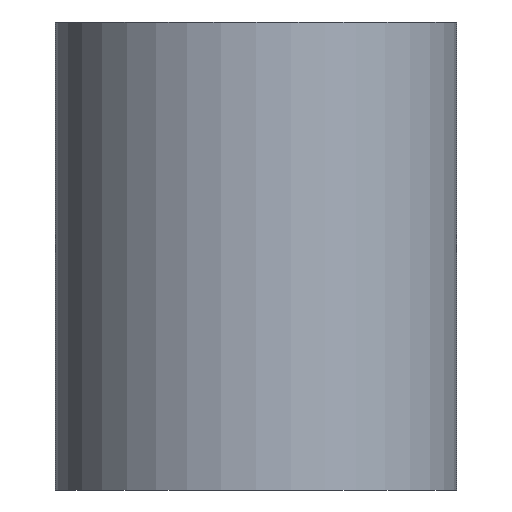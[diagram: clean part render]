
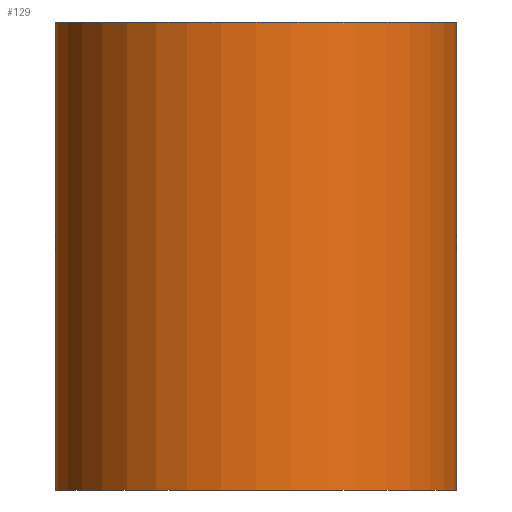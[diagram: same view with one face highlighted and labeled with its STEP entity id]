
A CAD part, front view. The second image highlights one B-rep face of the part: STEP entity #129.
In plain terms, the highlighted cylindrical face has radius 15 mm (diameter 30 mm), a partial arc.
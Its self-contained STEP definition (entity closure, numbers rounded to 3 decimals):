
#102=CYLINDRICAL_SURFACE('',#250,15.);
#108=FACE_OUTER_BOUND('',#150,.T.);
#113=LINE('',#337,#119);
#114=LINE('',#338,#120);
#119=VECTOR('',#295,1.);
#120=VECTOR('',#296,1.);
#129=ADVANCED_FACE('',(#108),#102,.T.);
#150=EDGE_LOOP('',(#183,#184,#185,#186));
#183=ORIENTED_EDGE('',*,*,#215,.F.);
#184=ORIENTED_EDGE('',*,*,#214,.T.);
#185=ORIENTED_EDGE('',*,*,#216,.T.);
#186=ORIENTED_EDGE('',*,*,#199,.F.);
#187=VERTEX_POINT('',#303);
#188=VERTEX_POINT('',#304);
#197=VERTEX_POINT('',#333);
#198=VERTEX_POINT('',#334);
#199=EDGE_CURVE('',#187,#188,#217,.T.);
#214=EDGE_CURVE('',#198,#197,#228,.T.);
#215=EDGE_CURVE('',#198,#187,#113,.T.);
#216=EDGE_CURVE('',#197,#188,#114,.T.);
#217=CIRCLE('',#230,15.);
#228=CIRCLE('',#247,15.);
#230=AXIS2_PLACEMENT_3D('',#302,#253,#254);
#247=AXIS2_PLACEMENT_3D('',#335,#291,#292);
#250=AXIS2_PLACEMENT_3D('',#340,#299,#300);
#253=DIRECTION('',(0.,0.,1.));
#254=DIRECTION('',(0.,1.,0.));
#291=DIRECTION('',(0.,0.,1.));
#292=DIRECTION('',(0.,1.,0.));
#295=DIRECTION('',(0.,0.,1.));
#296=DIRECTION('',(0.,0.,1.));
#299=DIRECTION('',(0.,0.,1.));
#300=DIRECTION('',(0.,-1.,0.));
#302=CARTESIAN_POINT('',(0.,0.,35.));
#303=CARTESIAN_POINT('',(-15.,0.,35.));
#304=CARTESIAN_POINT('',(15.,0.,35.));
#333=CARTESIAN_POINT('',(15.,0.,0.));
#334=CARTESIAN_POINT('',(-15.,0.,0.));
#335=CARTESIAN_POINT('',(0.,0.,0.));
#337=CARTESIAN_POINT('',(-15.,0.,0.));
#338=CARTESIAN_POINT('',(15.,0.,0.));
#340=CARTESIAN_POINT('',(0.,0.,0.));
